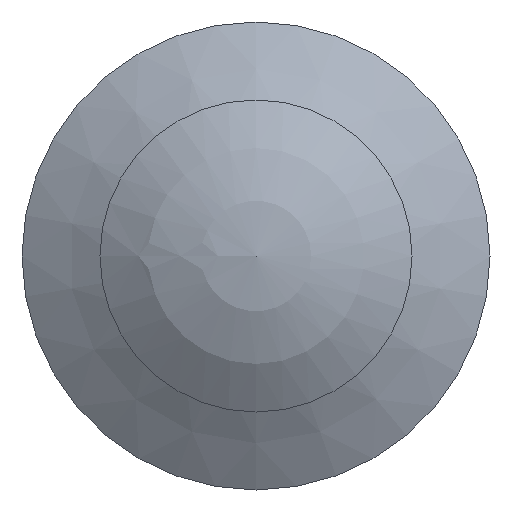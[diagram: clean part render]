
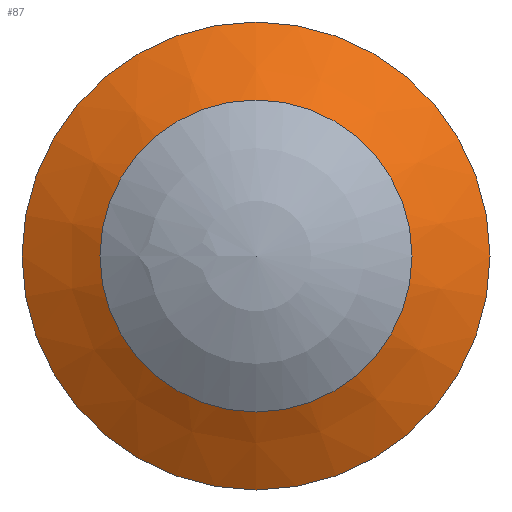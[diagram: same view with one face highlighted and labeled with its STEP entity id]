
A CAD part, front view. The second image highlights one B-rep face of the part: STEP entity #87.
In plain terms, the highlighted conical face has half-angle 60 degrees and reference radius 6 mm.
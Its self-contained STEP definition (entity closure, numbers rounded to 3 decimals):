
#87 = ADVANCED_FACE( '', ( #120, #121 ), #122, .T. );
#120 = FACE_BOUND( '', #158, .T. );
#121 = FACE_OUTER_BOUND( '', #159, .T. );
#122 = CONICAL_SURFACE( '', #160, 6., 1.047 );
#158 = EDGE_LOOP( '', ( #248 ) );
#159 = EDGE_LOOP( '', ( #249 ) );
#160 = AXIS2_PLACEMENT_3D( '', #250, #251, #252 );
#248 = ORIENTED_EDGE( '', *, *, #286, .F. );
#249 = ORIENTED_EDGE( '', *, *, #287, .T. );
#250 = CARTESIAN_POINT( '', ( 0., 10., 0. ) );
#251 = DIRECTION( '', ( 0., 1., 0. ) );
#252 = DIRECTION( '', ( 0., 0., 1. ) );
#286 = EDGE_CURVE( '', #327, #327, #328, .T. );
#287 = EDGE_CURVE( '', #329, #329, #330, .T. );
#327 = VERTEX_POINT( '', #389 );
#328 = CIRCLE( '', #390, 3.6 );
#329 = VERTEX_POINT( '', #391 );
#330 = CIRCLE( '', #392, 6. );
#389 = CARTESIAN_POINT( '', ( 0., 8.614, -3.6 ) );
#390 = AXIS2_PLACEMENT_3D( '', #425, #426, #427 );
#391 = CARTESIAN_POINT( '', ( 0., 10., -6. ) );
#392 = AXIS2_PLACEMENT_3D( '', #428, #429, #430 );
#425 = CARTESIAN_POINT( '', ( 0., 8.614, 0. ) );
#426 = DIRECTION( '', ( 0., -1., 0. ) );
#427 = DIRECTION( '', ( 0., 0., -1. ) );
#428 = CARTESIAN_POINT( '', ( 0., 10., 0. ) );
#429 = DIRECTION( '', ( 0., -1., 0. ) );
#430 = DIRECTION( '', ( 0., 0., -1. ) );
